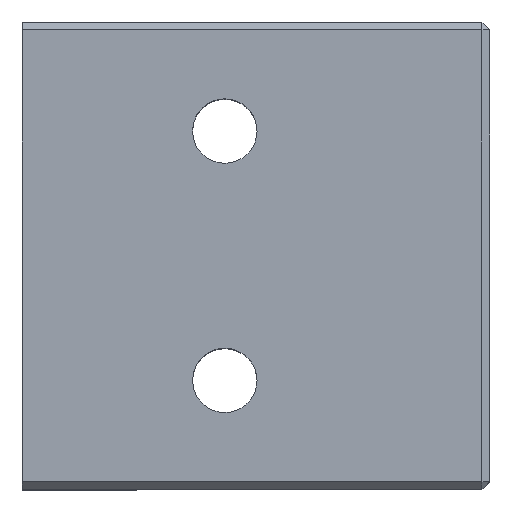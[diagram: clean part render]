
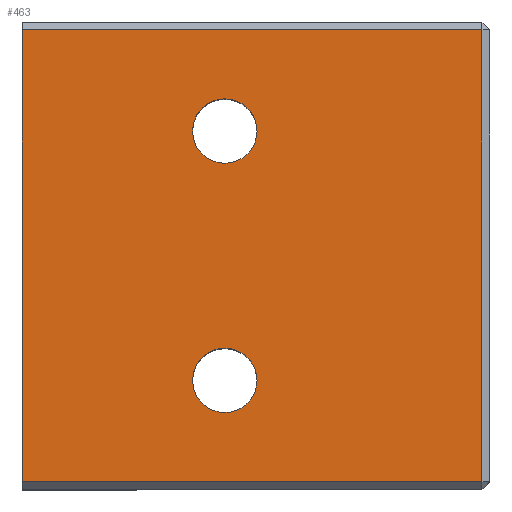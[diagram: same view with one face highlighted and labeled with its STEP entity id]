
A CAD part, top view. The second image highlights one B-rep face of the part: STEP entity #463.
In plain terms, the highlighted planar face has unit normal (0, 0, 1).
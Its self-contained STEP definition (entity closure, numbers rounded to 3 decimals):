
#75=CARTESIAN_POINT('',(4.793,14.142,20.0));
#76=VERTEX_POINT('',#75);
#105=CARTESIAN_POINT('',(4.793,-14.858,20.0));
#106=VERTEX_POINT('',#105);
#337=CARTESIAN_POINT('',(4.793,14.142,20.0));
#338=DIRECTION('',(0.0,-1.0,0.0));
#339=VECTOR('',#338,29.0);
#340=LINE('',#337,#339);
#341=EDGE_CURVE('',#76,#106,#340,.T.);
#351=CARTESIAN_POINT('',(-24.707,-14.858,20.0));
#352=VERTEX_POINT('',#351);
#368=CARTESIAN_POINT('',(4.793,-14.858,20.0));
#369=DIRECTION('',(-1.0,0.0,0.0));
#370=VECTOR('',#369,29.5);
#371=LINE('',#368,#370);
#372=EDGE_CURVE('',#106,#352,#371,.T.);
#384=CARTESIAN_POINT('',(-24.707,14.142,20.0));
#385=VERTEX_POINT('',#384);
#392=CARTESIAN_POINT('',(-24.707,14.142,20.0));
#393=DIRECTION('',(1.0,0.0,0.0));
#394=VECTOR('',#393,29.5);
#395=LINE('',#392,#394);
#396=EDGE_CURVE('',#385,#76,#395,.T.);
#425=CARTESIAN_POINT('',(-9.707,-0.358,20.0));
#426=DIRECTION('',(0.0,0.0,1.0));
#427=DIRECTION('',(1.0,0.0,0.0));
#428=AXIS2_PLACEMENT_3D('',#425,#426,#427);
#429=PLANE('',#428);
#430=ORIENTED_EDGE('',*,*,#372,.F.);
#431=ORIENTED_EDGE('',*,*,#341,.F.);
#432=ORIENTED_EDGE('',*,*,#396,.F.);
#433=CARTESIAN_POINT('',(-24.707,-14.858,20.0));
#434=DIRECTION('',(0.0,1.0,0.0));
#435=VECTOR('',#434,29.0);
#436=LINE('',#433,#435);
#437=EDGE_CURVE('',#352,#385,#436,.T.);
#438=ORIENTED_EDGE('',*,*,#437,.F.);
#439=EDGE_LOOP('',(#430,#431,#432,#438));
#440=FACE_OUTER_BOUND('',#439,.T.);
#441=CARTESIAN_POINT('',(-9.64,7.642,20.0));
#442=VERTEX_POINT('',#441);
#443=CARTESIAN_POINT('',(-11.707,7.642,20.0));
#444=DIRECTION('',(0.0,0.0,-1.0));
#445=DIRECTION('',(-1.0,0.0,0.0));
#446=AXIS2_PLACEMENT_3D('',#443,#444,#445);
#447=CIRCLE('',#446,2.067);
#448=EDGE_CURVE('',#442,#442,#447,.T.);
#449=ORIENTED_EDGE('',*,*,#448,.T.);
#450=EDGE_LOOP('',(#449));
#451=FACE_BOUND('',#450,.T.);
#452=CARTESIAN_POINT('',(-9.64,-8.358,20.0));
#453=VERTEX_POINT('',#452);
#454=CARTESIAN_POINT('',(-11.707,-8.358,20.0));
#455=DIRECTION('',(0.0,0.0,-1.0));
#456=DIRECTION('',(-1.0,0.0,0.0));
#457=AXIS2_PLACEMENT_3D('',#454,#455,#456);
#458=CIRCLE('',#457,2.067);
#459=EDGE_CURVE('',#453,#453,#458,.T.);
#460=ORIENTED_EDGE('',*,*,#459,.T.);
#461=EDGE_LOOP('',(#460));
#462=FACE_BOUND('',#461,.T.);
#463=ADVANCED_FACE('',(#440,#451,#462),#429,.T.);
